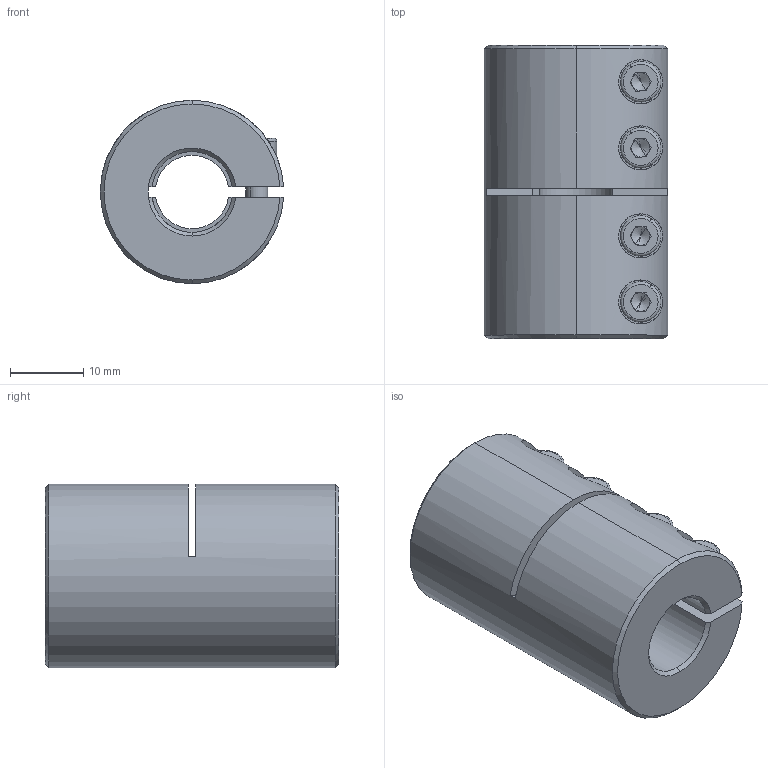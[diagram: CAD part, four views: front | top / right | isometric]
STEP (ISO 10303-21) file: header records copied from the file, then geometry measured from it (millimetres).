
FILE_DESCRIPTION (( 'STEP AP214' ), '1' );
FILE_NAME ('LL-B-D25L40-10-11½¨Ä£.STEP', '2022-07-21T05:20:16', ( '' ), ( '' ), 'SwSTEP 2.0', 'SolidWorks 2022', '' );
FILE_SCHEMA (( 'AUTOMOTIVE_DESIGN' ));
Length unit declared in the file: millimetre
Products named in the file (1): LL-B-D25L40-10-11膘耀
Bounding box: 24.98 x 40 x 25 mm (x, y, z)
Volume: 15172 mm3; surface area: 7130 mm2
Topology: 1 solids, 1 shells, 178 faces, 455 edges, 287 vertices
Faces by surface type: plane 85, cylinder 65, cone 20, torus 8
Entity records: 5838 total; most frequent: CARTESIAN_POINT 1437, DIRECTION 946, ORIENTED_EDGE 894, EDGE_CURVE 447, AXIS2_PLACEMENT_3D 364, VERTEX_POINT 287, LINE 218, VECTOR 218
